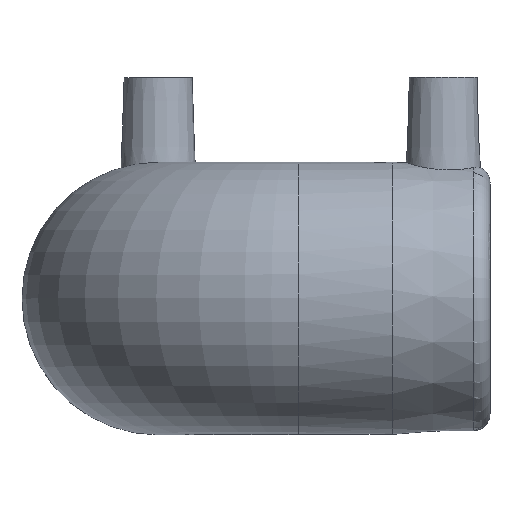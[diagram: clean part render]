
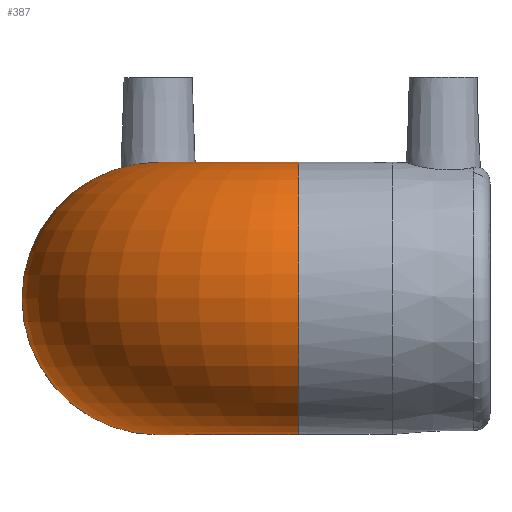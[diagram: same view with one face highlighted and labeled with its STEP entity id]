
A CAD part, top view. The second image highlights one B-rep face of the part: STEP entity #387.
In plain terms, the highlighted toroidal (fillet/blend) face has major radius 33 mm and minor radius 32 mm.
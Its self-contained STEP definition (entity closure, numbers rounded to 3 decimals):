
#49=TOROIDAL_SURFACE('',#446,33.,32.);
#93=ORIENTED_EDGE('',*,*,#164,.F.);
#94=ORIENTED_EDGE('',*,*,#168,.T.);
#164=EDGE_CURVE('',#205,#205,#235,.F.);
#168=EDGE_CURVE('',#209,#209,#237,.F.);
#205=VERTEX_POINT('',#699);
#209=VERTEX_POINT('',#721);
#235=CIRCLE('',#438,32.);
#237=CIRCLE('',#442,32.);
#275=EDGE_LOOP('',(#93));
#276=EDGE_LOOP('',(#94));
#334=FACE_BOUND('',#275,.T.);
#335=FACE_BOUND('',#276,.T.);
#387=ADVANCED_FACE('',(#334,#335),#49,.T.);
#438=AXIS2_PLACEMENT_3D('',#698,#516,#517);
#442=AXIS2_PLACEMENT_3D('',#720,#524,#525);
#446=AXIS2_PLACEMENT_3D('',#739,#532,#533);
#516=DIRECTION('',(-1.,0.,0.));
#517=DIRECTION('',(0.,0.,-1.));
#524=DIRECTION('',(0.,0.,-1.));
#525=DIRECTION('',(1.,0.,0.));
#532=DIRECTION('',(0.,1.,0.));
#533=DIRECTION('',(0.,0.,1.));
#698=CARTESIAN_POINT('',(33.,0.,78.));
#699=CARTESIAN_POINT('',(33.,0.,46.));
#720=CARTESIAN_POINT('',(0.,0.,45.));
#721=CARTESIAN_POINT('',(32.,0.,45.));
#739=CARTESIAN_POINT('',(33.,0.,45.));
